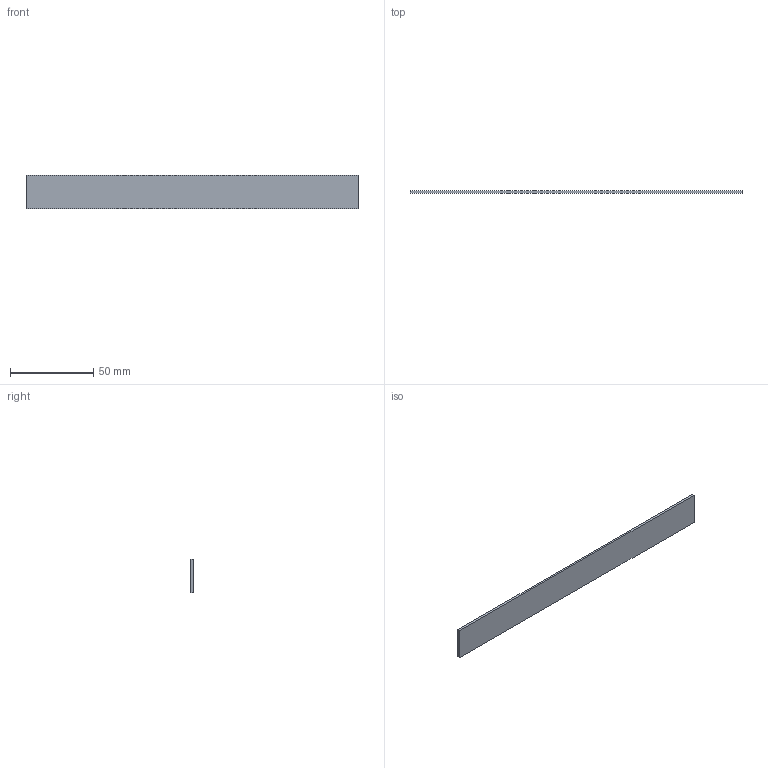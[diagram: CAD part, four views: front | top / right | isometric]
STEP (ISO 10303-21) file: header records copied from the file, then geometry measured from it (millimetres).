
FILE_DESCRIPTION(/* description */ ('Unknown'),/* implementation_level */ '2;1');
FILE_NAME(/* name */ 'BMAA',/* time_stamp */ '2019-08-28T15:44:22+02:00',/* author */ ('Unknown'),/* organization */ ('Unknown'),/* preprocessor_version */ 'ST-DEVELOPER v16.7',/* originating_system */ 'DEX',/* authorisation */ $);
FILE_SCHEMA (('AUTOMOTIVE_DESIGN {1 0 10303 214 3 1 1}'));
Length unit declared in the file: millimetre
Products named in the file (1): BMAA
Bounding box: 200 x 1.4 x 20 mm (x, y, z)
Volume: 5600 mm3; surface area: 8616 mm2
Topology: 1 solids, 1 shells, 6 faces, 12 edges, 8 vertices
Faces by surface type: plane 6
Entity records: 186 total; most frequent: CARTESIAN_POINT 27, DIRECTION 26, ORIENTED_EDGE 24, EDGE_CURVE 12, LINE 12, VECTOR 12, VERTEX_POINT 8, AXIS2_PLACEMENT_3D 7
